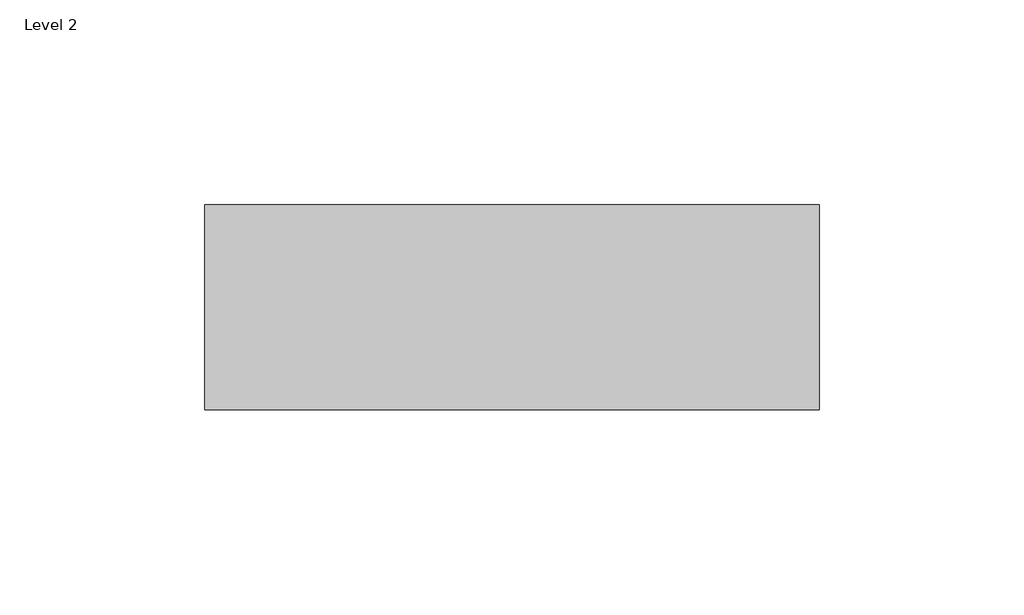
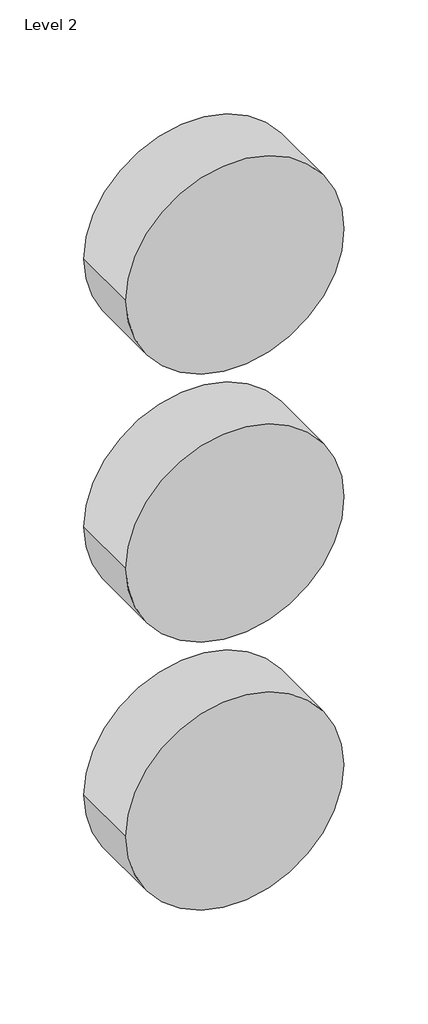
# One storey: 3 proxies.
"""IFC4 building model written with IfcOpenShell, lengths in millimetres."""

from ifc_helpers import new_model, si_unit, origin, place, context, project, spatial, transform, mapped, element, save
from components import materialmodel_materialmodel_17b3a4fc

model = new_model("IFC4")

# Units and contexts
model_context = context("Model", 3, world=origin())
ifc_project = project(units=[si_unit("LENGTHUNIT", "METRE", prefix="MILLI")], contexts=[model_context])

# Site, building, storey
site = spatial("IfcSite", under=ifc_project)
building = spatial("IfcBuilding", under=site)
storey = spatial("IfcBuildingStorey", under=building, Name="Level 2", Elevation=4000.0)

# Proxies
placement = place(None, origin())
materialmodel_materialmodel_shape = materialmodel_materialmodel_17b3a4fc(model_context)
element("IfcBuildingElementProxy", 1, Name="MaterialModel : MaterialModel", ObjectType="MaterialModel : MaterialModel", at=placement, inside=storey, context=model_context, shape_type="MappedRepresentation", body=[
    mapped(materialmodel_materialmodel_shape, transform((-5405.8506729, 2209.4764129, 709.0627182), x_axis=(1.0, 0.0, 0.0), y_axis=(0.0, 1.0, 0.0), z_axis=(0.0, 0.0, 1.0))),
])
element("IfcBuildingElementProxy", 2, Name="MaterialModel : MaterialModel", ObjectType="MaterialModel : MaterialModel", at=placement, inside=storey, context=model_context, shape_type="MappedRepresentation", body=[
    mapped(materialmodel_materialmodel_shape, transform((-5405.8803809, 2209.4764129, 514.0923111), x_axis=(1.0, 0.0, 0.0), y_axis=(0.0, 1.0, 0.0), z_axis=(0.0, 0.0, 1.0))),
])
element("IfcBuildingElementProxy", 3, Name="MaterialModel : MaterialModel", ObjectType="MaterialModel : MaterialModel", at=placement, inside=storey, context=model_context, shape_type="MappedRepresentation", body=[
    mapped(materialmodel_materialmodel_shape, transform((-5405.9100889, 2209.4764129, 319.1219041), x_axis=(1.0, 0.0, 0.0), y_axis=(0.0, 1.0, 0.0), z_axis=(0.0, 0.0, 1.0))),
])

save(model, "model.ifc")
